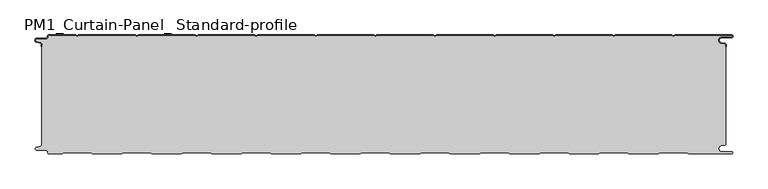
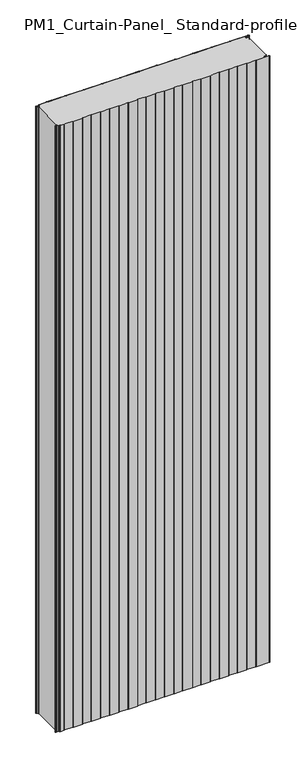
"""IFC4 building model written with IfcOpenShell, lengths in millimetres: plate geometry, PM1_Curtain-Panel_ Standard-profile : ACH_PM1_Acoustic-Sectioning-Panel_200M."""

from ifc_helpers import new_model, si_unit, point, frame, frame_2d, origin, origin_with_axes, place, context, project, spatial, polyline, circle_curve, trimmed, segment, composite_curve, outline, extrude, source, transform, mapped, element, save
from ifc_brep_helpers import plane_surface, cylinder_surface, revolved_surface, advanced_brep


def pm1_curtain_panel_standard_profile_ebc39398(model_context):
    return source(origin(), model_context, "Body", "SolidModel", [
        advanced_brep(
        [(-575.0, -15.878557, 3500.0), (-575.0, -20.0, 3500.0), (-574.2, -20.0, 3500.0), (-574.2, -15.878557, 3500.0), (-576.370137, -13.1503208, 3500.0), (-582.529863, -11.728236, 3500.0), (-581.9, -6.2, 3500.0), (-566.4, -6.2, 3500.0), (-563.6, -3.4, 3500.0), (-563.6, -2.0, 3500.0), (-562.4, -0.8, 3500.0), (-517.3143588, -0.8, 3500.0), (-514.4, -2.482606, 3500.0), (-511.4856412, -0.8, 3500.0), (-417.3143588, -0.8, 3500.0), (-414.4, -2.482606, 3500.0), (-411.4856412, -0.8, 3500.0), (-317.3143588, -0.8, 3500.0), (-314.4, -2.482606, 3500.0), (-311.4856412, -0.8, 3500.0), (-217.3143588, -0.8, 3500.0), (-214.4, -2.482606, 3500.0), (-211.4856412, -0.8, 3500.0), (-117.3143588, -0.8, 3500.0), (-114.4, -2.482606, 3500.0), (-111.4856412, -0.8, 3500.0), (-17.3143588, -0.8, 3500.0), (-14.4, -2.482606, 3500.0), (-11.4856412, -0.8, 3500.0), (82.6856412, -0.8, 3500.0), (85.6, -2.482606, 3500.0), (88.5143588, -0.8, 3500.0), (182.6856412, -0.8, 3500.0), (185.6, -2.482606, 3500.0), (188.5143588, -0.8, 3500.0), (282.6856412, -0.8, 3500.0), (285.6, -2.482606, 3500.0), (288.5143588, -0.8, 3500.0), (382.6856412, -0.8, 3500.0), (385.6, -2.482606, 3500.0), (388.5143588, -0.8, 3500.0), (482.6856412, -0.8, 3500.0), (485.6, -2.482606, 3500.0), (488.5143588, -0.8, 3500.0), (583.1, -0.8, 3500.0), (583.1, -4.2, 3500.0), (566.1, -4.2, 3500.0), (565.2664884, -13.7270771, 3500.0), (571.7125669, -14.8636953, 3500.0), (573.2, -16.6363492, 3500.0), (573.2, -20.0, 3500.0), (574.0, -20.0, 3500.0), (574.0, -16.6363492, 3500.0), (571.8514855, -14.0758491, 3500.0), (565.405407, -12.939231, 3500.0), (566.1, -5.0, 3500.0), (583.1, -5.0, 3500.0), (585.6, -2.5, 3500.0), (583.1, 0.0, 3500.0), (488.2999995, 0.0, 3500.0), (485.6, -1.5588455, 3500.0), (482.9000005, 0.0, 3500.0), (388.2999995, 0.0, 3500.0), (385.6, -1.5588455, 3500.0), (382.9000005, 0.0, 3500.0), (288.2999995, 0.0, 3500.0), (285.6, -1.5588455, 3500.0), (282.9000005, 0.0, 3500.0), (188.2999995, 0.0, 3500.0), (185.6, -1.5588455, 3500.0), (182.9000005, 0.0, 3500.0), (88.2999995, 0.0, 3500.0), (85.6, -1.5588455, 3500.0), (82.9000005, 0.0, 3500.0), (-11.7000005, 0.0, 3500.0), (-14.4, -1.5588455, 3500.0), (-17.0999995, 0.0, 3500.0), (-111.7000005, 0.0, 3500.0), (-114.4, -1.5588455, 3500.0), (-117.0999995, 0.0, 3500.0), (-211.7000005, 0.0, 3500.0), (-214.4, -1.5588455, 3500.0), (-217.0999995, 0.0, 3500.0), (-311.7000005, 0.0, 3500.0), (-314.4, -1.5588455, 3500.0), (-317.0999995, 0.0, 3500.0), (-411.7000005, 0.0, 3500.0), (-414.4, -1.5588455, 3500.0), (-417.0999995, 0.0, 3500.0), (-511.7000005, 0.0, 3500.0), (-514.4, -1.5588455, 3500.0), (-517.0999995, 0.0, 3500.0), (-562.4, 0.0, 3500.0), (-564.4, -2.0, 3500.0), (-564.4, -3.4, 3500.0), (-566.4, -5.4, 3500.0), (-581.9, -5.4, 3500.0), (-582.7098239, -12.5077322, 3500.0), (-576.5500979, -13.929817, 3500.0), (-575.0, -15.878557, 0.0), (-576.5500978, -13.9298169, 0.0), (-582.7098239, -12.507732, 0.0), (-581.9, -5.4, 0.0), (-566.4, -5.4, 0.0), (-564.4, -3.4, 0.0), (-564.4, -2.0, 0.0), (-562.4, 0.0, 0.0), (-517.0999995, 0.0, 0.0), (-514.4, -1.5588455, 0.0), (-511.7000005, 0.0, 0.0), (-417.0999995, 0.0, 0.0), (-414.4, -1.5588455, 0.0), (-411.7000005, 0.0, 0.0), (-317.0999995, 0.0, 0.0), (-314.4, -1.5588455, 0.0), (-311.7000005, 0.0, 0.0), (-217.0999995, 0.0, 0.0), (-214.4, -1.5588455, 0.0), (-211.7000005, 0.0, 0.0), (-117.0999995, 0.0, 0.0), (-114.4, -1.5588455, 0.0), (-111.7000005, 0.0, 0.0), (-17.0999995, 0.0, 0.0), (-14.4, -1.5588455, 0.0), (-11.7000005, 0.0, 0.0), (82.9000005, 0.0, 0.0), (85.6, -1.5588455, 0.0), (88.2999995, 0.0, 0.0), (182.9000005, 0.0, 0.0), (185.6, -1.5588455, 0.0), (188.2999995, 0.0, 0.0), (282.9000005, 0.0, 0.0), (285.6, -1.5588455, 0.0), (288.2999995, 0.0, 0.0), (382.9000005, 0.0, 0.0), (385.6, -1.5588455, 0.0), (388.2999995, 0.0, 0.0), (482.9000005, 0.0, 0.0), (485.6, -1.5588455, 0.0), (488.2999995, 0.0, 0.0), (583.1, 0.0, 0.0), (585.6, -2.5, 0.0), (583.1, -5.0, 0.0), (566.1, -5.0, 0.0), (565.405407, -12.939231, 0.0), (571.8514855, -14.0758491, 0.0), (574.0, -16.6363492, 0.0), (574.0, -20.0, 0.0), (573.2, -20.0, 0.0), (573.2, -16.6363492, 0.0), (571.7125669, -14.8636953, 0.0), (565.2664884, -13.7270772, 0.0), (566.1, -4.2, 0.0), (583.1, -4.2, 0.0), (583.1, -0.8, 0.0), (488.5143588, -0.8, 0.0), (485.6, -2.482606, 0.0), (482.6856412, -0.8, 0.0), (388.5143588, -0.8, 0.0), (385.6, -2.482606, 0.0), (382.6856412, -0.8, 0.0), (288.5143588, -0.8, 0.0), (285.6, -2.482606, 0.0), (282.6856412, -0.8, 0.0), (188.5143588, -0.8, 0.0), (185.6, -2.482606, 0.0), (182.6856412, -0.8, 0.0), (88.5143588, -0.8, 0.0), (85.6, -2.482606, 0.0), (82.6856412, -0.8, 0.0), (-11.4856412, -0.8, 0.0), (-14.4, -2.482606, 0.0), (-17.3143588, -0.8, 0.0), (-111.4856412, -0.8, 0.0), (-114.4, -2.482606, 0.0), (-117.3143588, -0.8, 0.0), (-211.4856412, -0.8, 0.0), (-214.4, -2.482606, 0.0), (-217.3143588, -0.8, 0.0), (-311.4856412, -0.8, 0.0), (-314.4, -2.482606, 0.0), (-317.3143588, -0.8, 0.0), (-411.4856412, -0.8, 0.0), (-414.4, -2.482606, 0.0), (-417.3143588, -0.8, 0.0), (-511.4856412, -0.8, 0.0), (-514.4, -2.482606, 0.0), (-517.3143588, -0.8, 0.0), (-562.4, -0.8, 0.0), (-563.6, -2.0, 0.0), (-563.6, -3.4, 0.0), (-566.4, -6.2, 0.0), (-581.9, -6.2, 0.0), (-582.529863, -11.7282362, 0.0), (-576.370137, -13.150321, 0.0), (-574.2, -15.878557, 0.0), (-574.2, -20.0, 0.0), (-575.0, -20.0, 0.0)],
        [
            (0, 1),
            (1, 2),
            (2, 3),
            (3, 4, circle_curve(frame((-577.0, -15.878557, 3500.0), z_axis=(0.0, 0.0, 1.0), x_axis=(1.0, 0.0, 0.0)), 2.8)),
            (4, 5),
            (5, 6, circle_curve(frame((-581.9, -9.0, 3500.0), z_axis=(0.0, 0.0, -1.0), x_axis=(1.0, 0.0, 0.0)), 2.8)),
            (6, 7),
            (7, 8, circle_curve(frame((-566.4, -3.4, 3500.0), z_axis=(0.0, 0.0, 1.0), x_axis=(1.0, 0.0, 0.0)), 2.8)),
            (8, 9),
            (9, 10, circle_curve(frame((-562.4, -2.0, 3500.0), z_axis=(0.0, 0.0, -1.0), x_axis=(1.0, 0.0, 0.0)), 1.2)),
            (10, 11),
            (11, 12),
            (12, 13),
            (13, 14),
            (14, 15),
            (15, 16),
            (16, 17),
            (17, 18),
            (18, 19),
            (19, 20),
            (20, 21),
            (21, 22),
            (22, 23),
            (23, 24),
            (24, 25),
            (25, 26),
            (26, 27),
            (27, 28),
            (28, 29),
            (29, 30),
            (30, 31),
            (31, 32),
            (32, 33),
            (33, 34),
            (34, 35),
            (35, 36),
            (36, 37),
            (37, 38),
            (38, 39),
            (39, 40),
            (40, 41),
            (41, 42),
            (42, 43),
            (43, 44),
            (44, 45, circle_curve(frame((583.1, -2.5, 3500.0), z_axis=(0.0, 0.0, -1.0), x_axis=(1.0, 0.0, 0.0)), 1.7)),
            (45, 46),
            (46, 47, circle_curve(frame((566.1, -9.0, 3500.0), z_axis=(0.0, 0.0, 1.0), x_axis=(1.0, 0.0, 0.0)), 4.8)),
            (47, 48),
            (48, 49, circle_curve(frame((571.4, -16.6363492, 3500.0), z_axis=(0.0, 0.0, -1.0), x_axis=(1.0, 0.0, 0.0)), 1.8)),
            (49, 50),
            (50, 51),
            (51, 52),
            (52, 53, circle_curve(frame((571.4, -16.6363492, 3500.0), z_axis=(0.0, 0.0, 1.0), x_axis=(1.0, 0.0, 0.0)), 2.6)),
            (53, 54),
            (54, 55, circle_curve(frame((566.1, -9.0, 3500.0), z_axis=(0.0, 0.0, -1.0), x_axis=(1.0, 0.0, 0.0)), 4.0)),
            (55, 56),
            (56, 57, circle_curve(frame((583.1, -2.5, 3500.0), z_axis=(0.0, 0.0, 1.0), x_axis=(1.0, 0.0, 0.0)), 2.5)),
            (57, 58, circle_curve(frame((583.1, -2.5, 3500.0), z_axis=(0.0, 0.0, 1.0), x_axis=(1.0, 0.0, 0.0)), 2.5)),
            (58, 59),
            (59, 60),
            (60, 61),
            (61, 62),
            (62, 63),
            (63, 64),
            (64, 65),
            (65, 66),
            (66, 67),
            (67, 68),
            (68, 69),
            (69, 70),
            (70, 71),
            (71, 72),
            (72, 73),
            (73, 74),
            (74, 75),
            (75, 76),
            (76, 77),
            (77, 78),
            (78, 79),
            (79, 80),
            (80, 81),
            (81, 82),
            (82, 83),
            (83, 84),
            (84, 85),
            (85, 86),
            (86, 87),
            (87, 88),
            (88, 89),
            (89, 90),
            (90, 91),
            (91, 92),
            (92, 93, circle_curve(frame((-562.4, -2.0, 3500.0), z_axis=(0.0, 0.0, 1.0), x_axis=(1.0, 0.0, 0.0)), 2.0)),
            (93, 94),
            (94, 95, circle_curve(frame((-566.4, -3.4, 3500.0), z_axis=(0.0, 0.0, -1.0), x_axis=(1.0, 0.0, 0.0)), 2.0)),
            (95, 96),
            (96, 97, circle_curve(frame((-581.9, -9.0, 3500.0), z_axis=(0.0, 0.0, 1.0), x_axis=(1.0, 0.0, 0.0)), 3.6)),
            (97, 98),
            (98, 0, circle_curve(frame((-577.0, -15.878557, 3500.0), z_axis=(0.0, 0.0, -1.0), x_axis=(1.0, 0.0, 0.0)), 2.0)),
            (99, 100, circle_curve(frame((-577.0, -15.878557, 0.0), z_axis=(0.0, 0.0, 1.0), x_axis=(1.0, 0.0, 0.0)), 2.0)),
            (100, 101),
            (101, 102, circle_curve(frame((-581.9, -9.0, 0.0), z_axis=(0.0, 0.0, -1.0), x_axis=(1.0, 0.0, 0.0)), 3.6)),
            (102, 103),
            (103, 104, circle_curve(frame((-566.4, -3.4, 0.0), z_axis=(0.0, 0.0, 1.0), x_axis=(1.0, 0.0, 0.0)), 2.0)),
            (104, 105),
            (105, 106, circle_curve(frame((-562.4, -2.0, 0.0), z_axis=(0.0, 0.0, -1.0), x_axis=(1.0, 0.0, 0.0)), 2.0)),
            (106, 107),
            (107, 108),
            (108, 109),
            (109, 110),
            (110, 111),
            (111, 112),
            (112, 113),
            (113, 114),
            (114, 115),
            (115, 116),
            (116, 117),
            (117, 118),
            (118, 119),
            (119, 120),
            (120, 121),
            (121, 122),
            (122, 123),
            (123, 124),
            (124, 125),
            (125, 126),
            (126, 127),
            (127, 128),
            (128, 129),
            (129, 130),
            (130, 131),
            (131, 132),
            (132, 133),
            (133, 134),
            (134, 135),
            (135, 136),
            (136, 137),
            (137, 138),
            (138, 139),
            (139, 140),
            (140, 141, circle_curve(frame((583.1, -2.5, 0.0), z_axis=(0.0, 0.0, -1.0), x_axis=(1.0, 0.0, 0.0)), 2.5)),
            (141, 142, circle_curve(frame((583.1, -2.5, 0.0), z_axis=(0.0, 0.0, -1.0), x_axis=(1.0, 0.0, 0.0)), 2.5)),
            (142, 143),
            (143, 144, circle_curve(frame((566.1, -9.0, 0.0), z_axis=(0.0, 0.0, 1.0), x_axis=(1.0, 0.0, 0.0)), 4.0)),
            (144, 145),
            (145, 146, circle_curve(frame((571.4, -16.6363492, 0.0), z_axis=(0.0, 0.0, -1.0), x_axis=(1.0, 0.0, 0.0)), 2.6)),
            (146, 147),
            (147, 148),
            (148, 149),
            (149, 150, circle_curve(frame((571.4, -16.6363492, 0.0), z_axis=(0.0, 0.0, 1.0), x_axis=(1.0, 0.0, 0.0)), 1.8)),
            (150, 151),
            (151, 152, circle_curve(frame((566.1, -9.0, 0.0), z_axis=(0.0, 0.0, -1.0), x_axis=(1.0, 0.0, 0.0)), 4.8)),
            (152, 153),
            (153, 154, circle_curve(frame((583.1, -2.5, 0.0), z_axis=(0.0, 0.0, 1.0), x_axis=(1.0, 0.0, 0.0)), 1.7)),
            (154, 155),
            (155, 156),
            (156, 157),
            (157, 158),
            (158, 159),
            (159, 160),
            (160, 161),
            (161, 162),
            (162, 163),
            (163, 164),
            (164, 165),
            (165, 166),
            (166, 167),
            (167, 168),
            (168, 169),
            (169, 170),
            (170, 171),
            (171, 172),
            (172, 173),
            (173, 174),
            (174, 175),
            (175, 176),
            (176, 177),
            (177, 178),
            (178, 179),
            (179, 180),
            (180, 181),
            (181, 182),
            (182, 183),
            (183, 184),
            (184, 185),
            (185, 186),
            (186, 187),
            (187, 188),
            (188, 189, circle_curve(frame((-562.4, -2.0, 0.0), z_axis=(0.0, 0.0, 1.0), x_axis=(1.0, 0.0, 0.0)), 1.2)),
            (189, 190),
            (190, 191, circle_curve(frame((-566.4, -3.4, 0.0), z_axis=(0.0, 0.0, -1.0), x_axis=(1.0, 0.0, 0.0)), 2.8)),
            (191, 192),
            (192, 193, circle_curve(frame((-581.9, -9.0, 0.0), z_axis=(0.0, 0.0, 1.0), x_axis=(1.0, 0.0, 0.0)), 2.8)),
            (193, 194),
            (194, 195, circle_curve(frame((-577.0, -15.878557, 0.0), z_axis=(0.0, 0.0, -1.0), x_axis=(1.0, 0.0, 0.0)), 2.8)),
            (195, 196),
            (196, 197),
            (197, 99),
            (0, 99),
            (197, 1),
            (196, 2),
            (195, 3),
            (194, 4),
            (193, 5),
            (192, 6),
            (191, 7),
            (190, 8),
            (189, 9),
            (188, 10),
            (187, 11),
            (186, 12),
            (185, 13),
            (184, 14),
            (183, 15),
            (182, 16),
            (181, 17),
            (180, 18),
            (179, 19),
            (178, 20),
            (177, 21),
            (176, 22),
            (175, 23),
            (174, 24),
            (173, 25),
            (172, 26),
            (171, 27),
            (170, 28),
            (169, 29),
            (168, 30),
            (167, 31),
            (166, 32),
            (165, 33),
            (164, 34),
            (163, 35),
            (162, 36),
            (161, 37),
            (160, 38),
            (159, 39),
            (158, 40),
            (157, 41),
            (156, 42),
            (155, 43),
            (154, 44),
            (153, 45),
            (152, 46),
            (151, 47),
            (150, 48),
            (149, 49),
            (148, 50),
            (147, 51),
            (146, 52),
            (145, 53),
            (144, 54),
            (143, 55),
            (142, 56),
            (140, 58),
            (139, 59),
            (138, 60),
            (137, 61),
            (136, 62),
            (135, 63),
            (134, 64),
            (133, 65),
            (132, 66),
            (131, 67),
            (130, 68),
            (129, 69),
            (128, 70),
            (127, 71),
            (126, 72),
            (125, 73),
            (124, 74),
            (123, 75),
            (122, 76),
            (121, 77),
            (120, 78),
            (119, 79),
            (118, 80),
            (117, 81),
            (116, 82),
            (115, 83),
            (114, 84),
            (113, 85),
            (112, 86),
            (111, 87),
            (110, 88),
            (109, 89),
            (108, 90),
            (107, 91),
            (106, 92),
            (105, 93),
            (104, 94),
            (103, 95),
            (102, 96),
            (101, 97),
            (100, 98),
        ],
        [
            plane_surface(frame((-575.0, 0.0, 3500.0), z_axis=(0.0, 0.0, 1.0), x_axis=(0.0, 1.0, 0.0))),
            plane_surface(frame((-575.0, 0.0, 0.0), z_axis=(0.0, 0.0, -1.0), x_axis=(0.0, 1.0, 0.0))),
            plane_surface(frame((-575.0, -15.878557, 3500.0), z_axis=(-1.0, 0.0, 0.0), x_axis=(0.0, 0.0, -1.0))),
            plane_surface(frame((-575.0, -20.0, 3500.0), z_axis=(0.0, -1.0, 0.0), x_axis=(0.0, 0.0, -1.0))),
            plane_surface(frame((-574.2, -20.0, 3500.0), z_axis=(1.0, 0.0, 0.0), x_axis=(0.0, 0.0, -1.0))),
            cylinder_surface(frame((-577.0, -15.878557, 3500.0), z_axis=(0.0, 0.0, 1.0), x_axis=(1.0, 0.0, 0.0)), 2.8),
            plane_surface(frame((-576.370137, -13.150321, 3500.0), z_axis=(0.22495108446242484, 0.9743700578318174, 0.0), x_axis=(0.0, 0.0, -1.0))),
            revolved_surface(polyline([(-579.1, -9.0, 0.0), (-579.1, -9.0, 3500.0)]), (-581.9, -9.0, 3500.0), (0.0, 0.0, -1.0)),
            plane_surface(frame((-581.9, -6.2, 3500.0), z_axis=(0.0, -1.0, 0.0), x_axis=(0.0, 0.0, -1.0))),
            cylinder_surface(frame((-566.4, -3.4, 3500.0), z_axis=(0.0, 0.0, 1.0), x_axis=(1.0, 0.0, 0.0)), 2.8),
            plane_surface(frame((-563.6, -3.4, 3500.0), z_axis=(1.0, 0.0, 0.0), x_axis=(0.0, 0.0, -1.0))),
            revolved_surface(polyline([(-561.1999999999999, -2.0, 0.0), (-561.1999999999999, -2.0, 3500.0)]), (-562.4, -2.0, 3500.0), (0.0, 0.0, -1.0)),
            plane_surface(frame((-562.4, -0.8, 3500.0), z_axis=(0.0, -1.0, 0.0), x_axis=(0.0, 0.0, -1.0))),
            plane_surface(frame((-517.3143588, -0.8, 3500.0), z_axis=(-0.5000000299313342, -0.8660253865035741, 0.0), x_axis=(0.0, 0.0, -1.0))),
            plane_surface(frame((-514.4, -2.482606, 3500.0), z_axis=(0.5000000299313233, -0.8660253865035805, 0.0), x_axis=(0.0, 0.0, -1.0))),
            plane_surface(frame((-511.4856412, -0.8, 3500.0), z_axis=(0.0, -1.0, 0.0), x_axis=(0.0, 0.0, -1.0))),
            plane_surface(frame((-417.3143588, -0.8, 3500.0), z_axis=(-0.5000000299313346, -0.8660253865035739, 0.0), x_axis=(0.0, 0.0, -1.0))),
            plane_surface(frame((-414.4, -2.482606, 3500.0), z_axis=(0.5000000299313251, -0.8660253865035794, 0.0), x_axis=(0.0, 0.0, -1.0))),
            plane_surface(frame((-411.4856412, -0.8, 3500.0), z_axis=(0.0, -1.0, 0.0), x_axis=(0.0, 0.0, -1.0))),
            plane_surface(frame((-317.3143588, -0.8, 3500.0), z_axis=(-0.5000000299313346, -0.866025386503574, 0.0), x_axis=(0.0, 0.0, -1.0))),
            plane_surface(frame((-314.4, -2.482606, 3500.0), z_axis=(0.5000000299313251, -0.8660253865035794, 0.0), x_axis=(0.0, 0.0, -1.0))),
            plane_surface(frame((-311.4856412, -0.8, 3500.0), z_axis=(0.0, -1.0, 0.0), x_axis=(0.0, 0.0, -1.0))),
            plane_surface(frame((-217.3143588, -0.8, 3500.0), z_axis=(-0.5000000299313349, -0.8660253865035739, 0.0), x_axis=(0.0, 0.0, -1.0))),
            plane_surface(frame((-214.4, -2.482606, 3500.0), z_axis=(0.5000000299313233, -0.8660253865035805, 0.0), x_axis=(0.0, 0.0, -1.0))),
            plane_surface(frame((-211.4856412, -0.8, 3500.0), z_axis=(0.0, -1.0, 0.0), x_axis=(0.0, 0.0, -1.0))),
            plane_surface(frame((-117.3143588, -0.8, 3500.0), z_axis=(-0.5000000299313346, -0.866025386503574, 0.0), x_axis=(0.0, 0.0, -1.0))),
            plane_surface(frame((-114.4, -2.482606, 3500.0), z_axis=(0.5000000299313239, -0.8660253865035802, 0.0), x_axis=(0.0, 0.0, -1.0))),
            plane_surface(frame((-111.4856412, -0.8, 3500.0), z_axis=(0.0, -1.0, 0.0), x_axis=(0.0, 0.0, -1.0))),
            plane_surface(frame((-17.3143588, -0.8, 3500.0), z_axis=(-0.5000000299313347, -0.8660253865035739, 0.0), x_axis=(0.0, 0.0, -1.0))),
            plane_surface(frame((-14.4, -2.482606, 3500.0), z_axis=(0.5000000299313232, -0.8660253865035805, 0.0), x_axis=(0.0, 0.0, -1.0))),
            plane_surface(frame((-11.4856412, -0.8, 3500.0), z_axis=(0.0, -1.0, 0.0), x_axis=(0.0, 0.0, -1.0))),
            plane_surface(frame((82.6856412, -0.8, 3500.0), z_axis=(-0.5000000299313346, -0.866025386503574, 0.0), x_axis=(0.0, 0.0, -1.0))),
            plane_surface(frame((85.6, -2.482606, 3500.0), z_axis=(0.5000000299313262, -0.8660253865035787, 0.0), x_axis=(0.0, 0.0, -1.0))),
            plane_surface(frame((88.5143588, -0.8, 3500.0), z_axis=(0.0, -1.0, 0.0), x_axis=(0.0, 0.0, -1.0))),
            plane_surface(frame((182.6856412, -0.8, 3500.0), z_axis=(-0.5000000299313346, -0.8660253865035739, 0.0), x_axis=(0.0, 0.0, -1.0))),
            plane_surface(frame((185.6, -2.482606, 3500.0), z_axis=(0.5000000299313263, -0.8660253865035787, 0.0), x_axis=(0.0, 0.0, -1.0))),
            plane_surface(frame((188.5143588, -0.8, 3500.0), z_axis=(0.0, -1.0, 0.0), x_axis=(0.0, 0.0, -1.0))),
            plane_surface(frame((282.6856412, -0.8, 3500.0), z_axis=(-0.5000000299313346, -0.8660253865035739, 0.0), x_axis=(0.0, 0.0, -1.0))),
            plane_surface(frame((285.6, -2.482606, 3500.0), z_axis=(0.5000000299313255, -0.8660253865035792, 0.0), x_axis=(0.0, 0.0, -1.0))),
            plane_surface(frame((288.5143588, -0.8, 3500.0), z_axis=(0.0, -1.0, 0.0), x_axis=(0.0, 0.0, -1.0))),
            plane_surface(frame((382.6856412, -0.8, 3500.0), z_axis=(-0.5000000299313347, -0.8660253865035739, 0.0), x_axis=(0.0, 0.0, -1.0))),
            plane_surface(frame((385.6, -2.482606, 3500.0), z_axis=(0.5000000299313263, -0.8660253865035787, 0.0), x_axis=(0.0, 0.0, -1.0))),
            plane_surface(frame((388.5143588, -0.8, 3500.0), z_axis=(0.0, -1.0, 0.0), x_axis=(0.0, 0.0, -1.0))),
            plane_surface(frame((482.6856412, -0.8, 3500.0), z_axis=(-0.5000000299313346, -0.866025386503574, 0.0), x_axis=(0.0, 0.0, -1.0))),
            plane_surface(frame((485.6, -2.482606, 3500.0), z_axis=(0.5000000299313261, -0.8660253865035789, 0.0), x_axis=(0.0, 0.0, -1.0))),
            plane_surface(frame((535.6, -0.8, 3500.0), z_axis=(0.0, -1.0, 0.0), x_axis=(0.0, 0.0, -1.0))),
            revolved_surface(polyline([(584.8000000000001, -2.5, 0.0), (584.8000000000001, -2.5, 3500.0)]), (583.1, -2.5, 3500.0), (0.0, 0.0, -1.0)),
            plane_surface(frame((583.1, -4.2, 3500.0), z_axis=(0.0, 1.0, 0.0), x_axis=(0.0, 0.0, -1.0))),
            cylinder_surface(frame((566.1, -9.0, 3500.0), z_axis=(0.0, 0.0, 1.0), x_axis=(1.0, 0.0, 0.0)), 4.8),
            plane_surface(frame((565.2664884, -13.7270772, 3500.0), z_axis=(-0.17364825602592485, -0.9848077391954, 0.0), x_axis=(0.0, 0.0, -1.0))),
            revolved_surface(polyline([(573.1999999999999, -16.6363492, 0.0), (573.1999999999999, -16.6363492, 3500.0)]), (571.4, -16.6363492, 3500.0), (0.0, 0.0, -1.0)),
            plane_surface(frame((573.2, -16.6363492, 3500.0), z_axis=(-1.0, 0.0, 0.0), x_axis=(0.0, 0.0, -1.0))),
            plane_surface(frame((573.2, -20.0, 3500.0), z_axis=(0.0, -1.0, 0.0), x_axis=(0.0, 0.0, -1.0))),
            plane_surface(frame((574.0, -20.0, 3500.0), z_axis=(1.0, 0.0, 0.0), x_axis=(0.0, 0.0, -1.0))),
            cylinder_surface(frame((571.4, -16.6363492, 3500.0), z_axis=(0.0, 0.0, 1.0), x_axis=(1.0, 0.0, 0.0)), 2.6),
            plane_surface(frame((571.8514855, -14.0758491, 3500.0), z_axis=(0.1736482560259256, 0.9848077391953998, 0.0), x_axis=(0.0, 0.0, -1.0))),
            revolved_surface(polyline([(570.1, -9.0, 0.0), (570.1, -9.0, 3500.0)]), (566.1, -9.0, 3500.0), (0.0, 0.0, -1.0)),
            plane_surface(frame((566.1, -5.0, 3500.0), z_axis=(0.0, -1.0, 0.0), x_axis=(0.0, 0.0, -1.0))),
            cylinder_surface(frame((583.1, -2.5, 3500.0), z_axis=(0.0, 0.0, 1.0), x_axis=(1.0, 0.0, 0.0)), 2.5),
            plane_surface(frame((535.6, 0.0, 3500.0), z_axis=(0.0, 1.0, 0.0), x_axis=(0.0, 0.0, -1.0))),
            plane_surface(frame((488.2999995, 0.0, 3500.0), z_axis=(-0.5000000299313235, 0.8660253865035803, 0.0), x_axis=(0.0, 0.0, -1.0))),
            plane_surface(frame((485.6, -1.5588455, 3500.0), z_axis=(0.5000000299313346, 0.8660253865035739, 0.0), x_axis=(0.0, 0.0, -1.0))),
            plane_surface(frame((482.9000005, 0.0, 3500.0), z_axis=(0.0, 1.0, 0.0), x_axis=(0.0, 0.0, -1.0))),
            plane_surface(frame((388.2999995, 0.0, 3500.0), z_axis=(-0.5000000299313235, 0.8660253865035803, 0.0), x_axis=(0.0, 0.0, -1.0))),
            plane_surface(frame((385.6, -1.5588455, 3500.0), z_axis=(0.5000000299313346, 0.8660253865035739, 0.0), x_axis=(0.0, 0.0, -1.0))),
            plane_surface(frame((382.9000005, 0.0, 3500.0), z_axis=(0.0, 1.0, 0.0), x_axis=(0.0, 0.0, -1.0))),
            plane_surface(frame((288.2999995, 0.0, 3500.0), z_axis=(-0.5000000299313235, 0.8660253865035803, 0.0), x_axis=(0.0, 0.0, -1.0))),
            plane_surface(frame((285.6, -1.5588455, 3500.0), z_axis=(0.5000000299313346, 0.8660253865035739, 0.0), x_axis=(0.0, 0.0, -1.0))),
            plane_surface(frame((282.9000005, 0.0, 3500.0), z_axis=(0.0, 1.0, 0.0), x_axis=(0.0, 0.0, -1.0))),
            plane_surface(frame((188.2999995, 0.0, 3500.0), z_axis=(-0.5000000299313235, 0.8660253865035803, 0.0), x_axis=(0.0, 0.0, -1.0))),
            plane_surface(frame((185.6, -1.5588455, 3500.0), z_axis=(0.5000000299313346, 0.8660253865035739, 0.0), x_axis=(0.0, 0.0, -1.0))),
            plane_surface(frame((182.9000005, 0.0, 3500.0), z_axis=(0.0, 1.0, 0.0), x_axis=(0.0, 0.0, -1.0))),
            plane_surface(frame((88.2999995, 0.0, 3500.0), z_axis=(-0.5000000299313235, 0.8660253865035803, 0.0), x_axis=(0.0, 0.0, -1.0))),
            plane_surface(frame((85.6, -1.5588455, 3500.0), z_axis=(0.5000000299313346, 0.8660253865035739, 0.0), x_axis=(0.0, 0.0, -1.0))),
            plane_surface(frame((82.9000005, 0.0, 3500.0), z_axis=(0.0, 1.0, 0.0), x_axis=(0.0, 0.0, -1.0))),
            plane_surface(frame((-11.7000005, 0.0, 3500.0), z_axis=(-0.5000000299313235, 0.8660253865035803, 0.0), x_axis=(0.0, 0.0, -1.0))),
            plane_surface(frame((-14.4, -1.5588455, 3500.0), z_axis=(0.5000000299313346, 0.8660253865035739, 0.0), x_axis=(0.0, 0.0, -1.0))),
            plane_surface(frame((-17.0999995, 0.0, 3500.0), z_axis=(0.0, 1.0, 0.0), x_axis=(0.0, 0.0, -1.0))),
            plane_surface(frame((-111.7000005, 0.0, 3500.0), z_axis=(-0.5000000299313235, 0.8660253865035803, 0.0), x_axis=(0.0, 0.0, -1.0))),
            plane_surface(frame((-114.4, -1.5588455, 3500.0), z_axis=(0.5000000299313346, 0.8660253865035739, 0.0), x_axis=(0.0, 0.0, -1.0))),
            plane_surface(frame((-117.0999995, 0.0, 3500.0), z_axis=(0.0, 1.0, 0.0), x_axis=(0.0, 0.0, -1.0))),
            plane_surface(frame((-211.7000005, 0.0, 3500.0), z_axis=(-0.5000000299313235, 0.8660253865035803, 0.0), x_axis=(0.0, 0.0, -1.0))),
            plane_surface(frame((-214.4, -1.5588455, 3500.0), z_axis=(0.5000000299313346, 0.8660253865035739, 0.0), x_axis=(0.0, 0.0, -1.0))),
            plane_surface(frame((-217.0999995, 0.0, 3500.0), z_axis=(0.0, 1.0, 0.0), x_axis=(0.0, 0.0, -1.0))),
            plane_surface(frame((-311.7000005, 0.0, 3500.0), z_axis=(-0.5000000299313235, 0.8660253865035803, 0.0), x_axis=(0.0, 0.0, -1.0))),
            plane_surface(frame((-314.4, -1.5588455, 3500.0), z_axis=(0.5000000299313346, 0.8660253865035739, 0.0), x_axis=(0.0, 0.0, -1.0))),
            plane_surface(frame((-317.0999995, 0.0, 3500.0), z_axis=(0.0, 1.0, 0.0), x_axis=(0.0, 0.0, -1.0))),
            plane_surface(frame((-411.7000005, 0.0, 3500.0), z_axis=(-0.5000000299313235, 0.8660253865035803, 0.0), x_axis=(0.0, 0.0, -1.0))),
            plane_surface(frame((-414.4, -1.5588455, 3500.0), z_axis=(0.5000000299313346, 0.8660253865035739, 0.0), x_axis=(0.0, 0.0, -1.0))),
            plane_surface(frame((-417.0999995, 0.0, 3500.0), z_axis=(0.0, 1.0, 0.0), x_axis=(0.0, 0.0, -1.0))),
            plane_surface(frame((-511.7000005, 0.0, 3500.0), z_axis=(-0.5000000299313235, 0.8660253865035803, 0.0), x_axis=(0.0, 0.0, -1.0))),
            plane_surface(frame((-514.4, -1.5588455, 3500.0), z_axis=(0.5000000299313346, 0.8660253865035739, 0.0), x_axis=(0.0, 0.0, -1.0))),
            plane_surface(frame((-517.0999995, 0.0, 3500.0), z_axis=(0.0, 1.0, 0.0), x_axis=(0.0, 0.0, -1.0))),
            cylinder_surface(frame((-562.4, -2.0, 3500.0), z_axis=(0.0, 0.0, 1.0), x_axis=(1.0, 0.0, 0.0)), 2.0),
            plane_surface(frame((-564.4, -2.0, 3500.0), z_axis=(-1.0, 0.0, 0.0), x_axis=(0.0, 0.0, -1.0))),
            revolved_surface(polyline([(-564.4, -3.4, 0.0), (-564.4, -3.4, 3500.0)]), (-566.4, -3.4, 3500.0), (0.0, 0.0, -1.0)),
            plane_surface(frame((-566.4, -5.4, 3500.0), z_axis=(0.0, 1.0, 0.0), x_axis=(0.0, 0.0, -1.0))),
            cylinder_surface(frame((-581.9, -9.0, 3500.0), z_axis=(0.0, 0.0, 1.0), x_axis=(1.0, 0.0, 0.0)), 3.6),
            plane_surface(frame((-582.7098239, -12.507732, 3500.0), z_axis=(-0.22495108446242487, -0.9743700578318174, 0.0), x_axis=(0.0, 0.0, -1.0))),
            revolved_surface(polyline([(-575.0, -15.878557, 0.0), (-575.0, -15.878557, 3500.0)]), (-577.0, -15.878557, 3500.0), (0.0, 0.0, -1.0)),
        ],
        [
            (0, [[1, 2, 3, 4, 5, 6, 7, 8, 9, 10, 11, 12, 13, 14, 15, 16, 17, 18, 19, 20, 21, 22, 23, 24, 25, 26, 27, 28, 29, 30, 31, 32, 33, 34, 35, 36, 37, 38, 39, 40, 41, 42, 43, 44, 45, 46, 47, 48, 49, 50, 51, 52, 53, 54, 55, 56, 57, 58, 59, 60, 61, 62, 63, 64, 65, 66, 67, 68, 69, 70, 71, 72, 73, 74, 75, 76, 77, 78, 79, 80, 81, 82, 83, 84, 85, 86, 87, 88, 89, 90, 91, 92, 93, 94, 95, 96, 97, 98, 99]]),
            (1, [[100, 101, 102, 103, 104, 105, 106, 107, 108, 109, 110, 111, 112, 113, 114, 115, 116, 117, 118, 119, 120, 121, 122, 123, 124, 125, 126, 127, 128, 129, 130, 131, 132, 133, 134, 135, 136, 137, 138, 139, 140, 141, 142, 143, 144, 145, 146, 147, 148, 149, 150, 151, 152, 153, 154, 155, 156, 157, 158, 159, 160, 161, 162, 163, 164, 165, 166, 167, 168, 169, 170, 171, 172, 173, 174, 175, 176, 177, 178, 179, 180, 181, 182, 183, 184, 185, 186, 187, 188, 189, 190, 191, 192, 193, 194, 195, 196, 197, 198]]),
            (2, [[-1, 199, -198, 200]]),
            (3, [[-2, -200, -197, 201]]),
            (4, [[-3, -201, -196, 202]]),
            (5, [[-4, -202, -195, 203]]),
            (6, [[-5, -203, -194, 204]]),
            (7, [[-6, -204, -193, 205]]),
            (8, [[-7, -205, -192, 206]]),
            (9, [[-8, -206, -191, 207]]),
            (10, [[-9, -207, -190, 208]]),
            (11, [[-10, -208, -189, 209]]),
            (12, [[-11, -209, -188, 210]]),
            (13, [[-12, -210, -187, 211]]),
            (14, [[-13, -211, -186, 212]]),
            (15, [[-14, -212, -185, 213]]),
            (16, [[-15, -213, -184, 214]]),
            (17, [[-16, -214, -183, 215]]),
            (18, [[-17, -215, -182, 216]]),
            (19, [[-18, -216, -181, 217]]),
            (20, [[-19, -217, -180, 218]]),
            (21, [[-20, -218, -179, 219]]),
            (22, [[-21, -219, -178, 220]]),
            (23, [[-22, -220, -177, 221]]),
            (24, [[-23, -221, -176, 222]]),
            (25, [[-24, -222, -175, 223]]),
            (26, [[-25, -223, -174, 224]]),
            (27, [[-26, -224, -173, 225]]),
            (28, [[-27, -225, -172, 226]]),
            (29, [[-28, -226, -171, 227]]),
            (30, [[-29, -227, -170, 228]]),
            (31, [[-30, -228, -169, 229]]),
            (32, [[-31, -229, -168, 230]]),
            (33, [[-32, -230, -167, 231]]),
            (34, [[-33, -231, -166, 232]]),
            (35, [[-34, -232, -165, 233]]),
            (36, [[-35, -233, -164, 234]]),
            (37, [[-36, -234, -163, 235]]),
            (38, [[-37, -235, -162, 236]]),
            (39, [[-38, -236, -161, 237]]),
            (40, [[-39, -237, -160, 238]]),
            (41, [[-40, -238, -159, 239]]),
            (42, [[-41, -239, -158, 240]]),
            (43, [[-42, -240, -157, 241]]),
            (44, [[-43, -241, -156, 242]]),
            (45, [[-44, -242, -155, 243]]),
            (46, [[-45, -243, -154, 244]]),
            (47, [[-46, -244, -153, 245]]),
            (48, [[-47, -245, -152, 246]]),
            (49, [[-48, -246, -151, 247]]),
            (50, [[-49, -247, -150, 248]]),
            (51, [[-50, -248, -149, 249]]),
            (52, [[-51, -249, -148, 250]]),
            (53, [[-52, -250, -147, 251]]),
            (54, [[-53, -251, -146, 252]]),
            (55, [[-54, -252, -145, 253]]),
            (56, [[-55, -253, -144, 254]]),
            (57, [[-56, -254, -143, 255]]),
            (58, [[-255, -142, -141, 256, -58, -57]]),
            (59, [[-59, -256, -140, 257]]),
            (60, [[-60, -257, -139, 258]]),
            (61, [[-61, -258, -138, 259]]),
            (62, [[-62, -259, -137, 260]]),
            (63, [[-63, -260, -136, 261]]),
            (64, [[-64, -261, -135, 262]]),
            (65, [[-65, -262, -134, 263]]),
            (66, [[-66, -263, -133, 264]]),
            (67, [[-67, -264, -132, 265]]),
            (68, [[-68, -265, -131, 266]]),
            (69, [[-69, -266, -130, 267]]),
            (70, [[-70, -267, -129, 268]]),
            (71, [[-71, -268, -128, 269]]),
            (72, [[-72, -269, -127, 270]]),
            (73, [[-73, -270, -126, 271]]),
            (74, [[-74, -271, -125, 272]]),
            (75, [[-75, -272, -124, 273]]),
            (76, [[-76, -273, -123, 274]]),
            (77, [[-77, -274, -122, 275]]),
            (78, [[-78, -275, -121, 276]]),
            (79, [[-79, -276, -120, 277]]),
            (80, [[-80, -277, -119, 278]]),
            (81, [[-81, -278, -118, 279]]),
            (82, [[-82, -279, -117, 280]]),
            (83, [[-83, -280, -116, 281]]),
            (84, [[-84, -281, -115, 282]]),
            (85, [[-85, -282, -114, 283]]),
            (86, [[-86, -283, -113, 284]]),
            (87, [[-87, -284, -112, 285]]),
            (88, [[-88, -285, -111, 286]]),
            (89, [[-89, -286, -110, 287]]),
            (90, [[-90, -287, -109, 288]]),
            (91, [[-91, -288, -108, 289]]),
            (92, [[-92, -289, -107, 290]]),
            (93, [[-93, -290, -106, 291]]),
            (94, [[-94, -291, -105, 292]]),
            (95, [[-95, -292, -104, 293]]),
            (96, [[-96, -293, -103, 294]]),
            (97, [[-97, -294, -102, 295]]),
            (98, [[-98, -295, -101, 296]]),
            (99, [[-99, -296, -100, -199]]),
        ],
    ),
        extrude(outline(composite_curve([segment(polyline([(-574.2, -184.121443), (-574.2, -15.8785573)]), True, "CONTINUOUS"), segment(trimmed(circle_curve(frame_2d((-577.0, -15.8785573)), 2.8), [point((-574.2, -15.8785573))], [point((-576.370137, -13.1503212))], True, "CARTESIAN"), True, "CONTINUOUS"), segment(polyline([(-576.370137, -13.1503212), (-582.5298631, -11.7282362)]), True, "CONTINUOUS"), segment(trimmed(circle_curve(frame_2d((-581.9, -9.0)), 2.8), [point((-582.5298631, -11.7282362))], [point((-581.9, -6.2))], False, "CARTESIAN"), True, "CONTINUOUS"), segment(polyline([(-581.9, -6.2), (-566.4000001, -6.2)]), True, "CONTINUOUS"), segment(trimmed(circle_curve(frame_2d((-566.4000001, -3.4)), 2.8), [point((-566.4000001, -6.2))], [point((-563.6000001, -3.4))], True, "CARTESIAN"), True, "CONTINUOUS"), segment(polyline([(-563.6000001, -3.4), (-563.6000001, -2.0)]), True, "CONTINUOUS"), segment(trimmed(circle_curve(frame_2d((-562.4000001, -2.0)), 1.2), [point((-563.6000001, -2.0))], [point((-562.4000001, -0.8))], False, "CARTESIAN"), True, "CONTINUOUS"), segment(polyline([(-562.4000001, -0.8), (-517.3143589, -0.8), (-514.4000001, -2.482606), (-511.4856412, -0.8), (-417.3143589, -0.8), (-414.4000001, -2.482606), (-411.4856412, -0.8), (-317.3143589, -0.8), (-314.4000001, -2.482606), (-311.4856412, -0.8), (-217.3143589, -0.8), (-214.4000001, -2.482606), (-211.4856412, -0.8), (-117.3143589, -0.8), (-114.4000001, -2.482606), (-111.4856412, -0.8), (-17.3143589, -0.8), (-14.4000001, -2.482606), (-11.4856412, -0.8), (82.6856411, -0.8), (85.5999999, -2.482606), (88.5143588, -0.8), (182.6856411, -0.8), (185.5999999, -2.482606), (188.5143588, -0.8), (282.6856411, -0.8), (285.5999999, -2.482606), (288.5143588, -0.8), (382.6856411, -0.8), (385.5999999, -2.482606), (388.5143588, -0.8), (482.6856411, -0.8), (485.6, -2.482606), (488.5143588, -0.8), (583.1, -0.8)]), True, "CONTINUOUS"), segment(trimmed(circle_curve(frame_2d((583.1, -2.5)), 1.7), [point((583.1, -0.8))], [point((583.1, -4.2))], False, "CARTESIAN"), True, "CONTINUOUS"), segment(polyline([(583.1, -4.2), (566.1, -4.2)]), True, "CONTINUOUS"), segment(trimmed(circle_curve(frame_2d((566.1, -9.0)), 4.8), [point((566.1, -4.2))], [point((565.2664883, -13.7270771))], True, "CARTESIAN"), True, "CONTINUOUS"), segment(polyline([(565.2664883, -13.7270771), (571.7125668, -14.8636953)]), True, "CONTINUOUS"), segment(trimmed(circle_curve(frame_2d((571.4, -16.6363492)), 1.8), [point((571.7125668, -14.8636953))], [point((573.2, -16.6363492))], False, "CARTESIAN"), True, "CONTINUOUS"), segment(polyline([(573.2, -16.6363492), (573.2, -183.363652)]), True, "CONTINUOUS"), segment(trimmed(circle_curve(frame_2d((571.4, -183.363652)), 1.8), [point((573.2, -183.363652))], [point((571.7125666, -185.1363059))], False, "CARTESIAN"), True, "CONTINUOUS"), segment(polyline([(571.7125666, -185.1363059), (565.266489, -186.272923)]), True, "CONTINUOUS"), segment(trimmed(circle_curve(frame_2d((566.1, -191.0000002)), 4.7999999), [point((565.266489, -186.272923))], [point((566.1, -195.8000001))], True, "CARTESIAN"), True, "CONTINUOUS"), segment(polyline([(566.1, -195.8000001), (583.1, -195.8000001)]), True, "CONTINUOUS"), segment(trimmed(circle_curve(frame_2d((583.1, -197.5)), 1.7), [point((583.1, -195.8000001))], [point((583.1, -199.2))], False, "CARTESIAN"), True, "CONTINUOUS"), segment(polyline([(583.1, -199.2), (510.8105122, -199.2), (508.2124346, -197.7), (462.9837184, -197.7), (460.3856408, -199.2), (410.8105122, -199.2), (408.2124346, -197.7), (362.9837184, -197.7), (360.3856408, -199.2), (310.8105122, -199.2), (308.2124346, -197.7), (262.9837184, -197.7), (260.3856408, -199.2), (210.8105122, -199.2), (208.2124346, -197.7), (162.9837184, -197.7), (160.3856408, -199.2), (110.8105122, -199.2), (108.2124346, -197.7), (62.9837184, -197.7), (60.3856408, -199.2), (10.8105122, -199.2), (8.2124346, -197.7), (-37.0162816, -197.7), (-39.6143592, -199.2), (-89.1894878, -199.2), (-91.7875654, -197.7), (-137.0162816, -197.7), (-139.6143592, -199.2), (-189.1894878, -199.2), (-191.7875654, -197.7), (-237.0162816, -197.7), (-239.6143592, -199.2), (-289.1894878, -199.2), (-291.7875654, -197.7), (-337.0162816, -197.7), (-339.6143592, -199.2), (-389.1894878, -199.2), (-391.7875654, -197.7), (-437.0162816, -197.7), (-439.6143592, -199.2), (-489.1894878, -199.2), (-491.7875654, -197.7), (-537.0162816, -197.7), (-539.6143592, -199.2), (-562.4, -199.2)]), True, "CONTINUOUS"), segment(trimmed(circle_curve(frame_2d((-562.4, -198.0)), 1.2), [point((-562.4, -199.2))], [point((-563.6, -198.0))], False, "CARTESIAN"), True, "CONTINUOUS"), segment(polyline([(-563.6, -198.0), (-563.6, -196.5999998)]), True, "CONTINUOUS"), segment(trimmed(circle_curve(frame_2d((-566.4, -196.5999998)), 2.8), [point((-563.6, -196.5999998))], [point((-566.4, -193.7999998))], True, "CARTESIAN"), True, "CONTINUOUS"), segment(polyline([(-566.4, -193.7999998), (-581.9, -193.7999998)]), True, "CONTINUOUS"), segment(trimmed(circle_curve(frame_2d((-581.9, -191.0)), 2.7999998), [point((-581.9, -193.7999998))], [point((-582.529863, -188.271764))], False, "CARTESIAN"), True, "CONTINUOUS"), segment(polyline([(-582.529863, -188.271764), (-576.370137, -186.8496792)]), True, "CONTINUOUS"), segment(trimmed(circle_curve(frame_2d((-577.0, -184.121443)), 2.8), [point((-576.370137, -186.8496792))], [point((-574.2, -184.121443))], True, "CARTESIAN"), True, "CONTINUOUS")], self_intersect=False)), origin_with_axes(), (0.0, 0.0, 1.0), 3500.0),
    ])


if __name__ == "__main__":
    model = new_model("IFC4")
    model_context = context("Model", 3, world=origin())
    ifc_project = project(units=[si_unit("LENGTHUNIT", "METRE", prefix="MILLI")], contexts=[model_context])
    site = spatial("IfcSite", under=ifc_project)
    building = spatial("IfcBuilding", under=site)
    placement = place(None, origin())
    pm1_curtain_panel_standard_profile_shape = pm1_curtain_panel_standard_profile_ebc39398(model_context)
    element("IfcPlate", 1, ObjectType="PM1_Curtain-Panel_ Standard-profile : ACH_PM1_Acoustic-Sectioning-Panel_200M", at=placement, inside=building, context=model_context, shape_type="MappedRepresentation", body=[
        mapped(pm1_curtain_panel_standard_profile_shape, transform((0.0, 0.0, 0.0), x_axis=(1.0, 0.0, 0.0), y_axis=(0.0, 1.0, 0.0), z_axis=(0.0, 0.0, 1.0))),
    ])
    save(model, "model.ifc")
